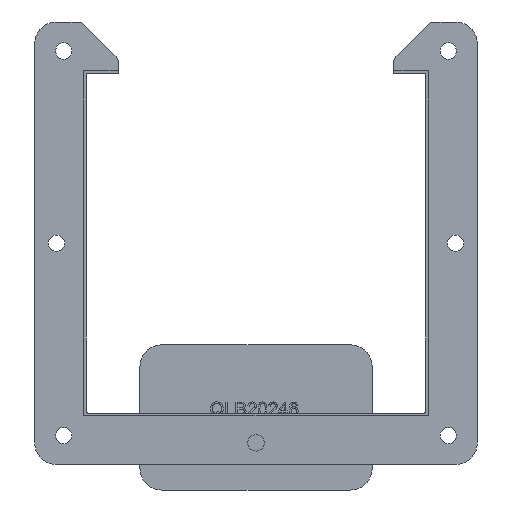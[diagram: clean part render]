
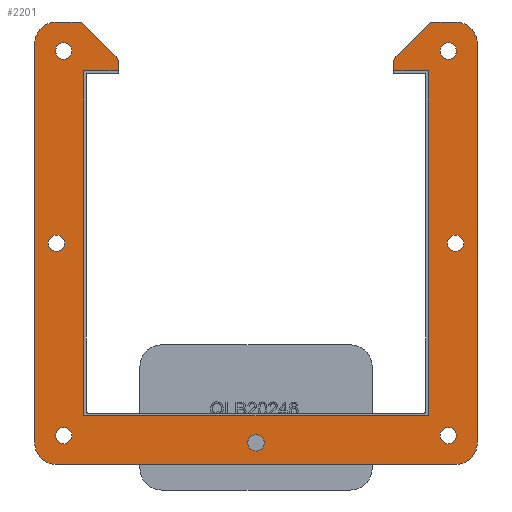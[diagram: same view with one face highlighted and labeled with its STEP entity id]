
A CAD part, front view. The second image highlights one B-rep face of the part: STEP entity #2201.
In plain terms, the highlighted planar face has unit normal (0, -1, 0) as drawn and (0, 0, 1) by its records, which use the part's own axes.
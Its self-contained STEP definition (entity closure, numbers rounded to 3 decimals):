
#195=CIRCLE('',#2387,3.569);
#196=CIRCLE('',#2388,3.569);
#197=CIRCLE('',#2389,3.569);
#198=CIRCLE('',#2390,3.569);
#199=CIRCLE('',#2391,3.569);
#200=CIRCLE('',#2392,3.569);
#201=CIRCLE('',#2393,3.569);
#202=CIRCLE('',#2394,9.525);
#203=CIRCLE('',#2395,3.175);
#204=CIRCLE('',#2396,3.175);
#205=CIRCLE('',#2397,3.175);
#206=CIRCLE('',#2398,3.175);
#207=CIRCLE('',#2399,9.525);
#208=CIRCLE('',#2400,9.525);
#209=CIRCLE('',#2401,9.525);
#319=ORIENTED_EDGE('',*,*,#951,.F.);
#320=ORIENTED_EDGE('',*,*,#952,.F.);
#321=ORIENTED_EDGE('',*,*,#953,.F.);
#322=ORIENTED_EDGE('',*,*,#954,.F.);
#323=ORIENTED_EDGE('',*,*,#955,.F.);
#324=ORIENTED_EDGE('',*,*,#956,.F.);
#325=ORIENTED_EDGE('',*,*,#957,.F.);
#326=ORIENTED_EDGE('',*,*,#896,.T.);
#327=ORIENTED_EDGE('',*,*,#958,.T.);
#328=ORIENTED_EDGE('',*,*,#898,.T.);
#329=ORIENTED_EDGE('',*,*,#959,.T.);
#330=ORIENTED_EDGE('',*,*,#902,.T.);
#331=ORIENTED_EDGE('',*,*,#960,.T.);
#332=ORIENTED_EDGE('',*,*,#906,.T.);
#333=ORIENTED_EDGE('',*,*,#910,.T.);
#334=ORIENTED_EDGE('',*,*,#913,.T.);
#335=ORIENTED_EDGE('',*,*,#916,.T.);
#336=ORIENTED_EDGE('',*,*,#919,.T.);
#337=ORIENTED_EDGE('',*,*,#922,.T.);
#338=ORIENTED_EDGE('',*,*,#927,.T.);
#339=ORIENTED_EDGE('',*,*,#961,.T.);
#340=ORIENTED_EDGE('',*,*,#930,.T.);
#341=ORIENTED_EDGE('',*,*,#962,.T.);
#342=ORIENTED_EDGE('',*,*,#934,.T.);
#343=ORIENTED_EDGE('',*,*,#963,.T.);
#344=ORIENTED_EDGE('',*,*,#888,.T.);
#345=ORIENTED_EDGE('',*,*,#964,.T.);
#346=ORIENTED_EDGE('',*,*,#892,.T.);
#347=ORIENTED_EDGE('',*,*,#965,.T.);
#888=EDGE_CURVE('',#1215,#1214,#1438,.T.);
#892=EDGE_CURVE('',#1219,#1218,#1442,.T.);
#896=EDGE_CURVE('',#1223,#1222,#1446,.T.);
#898=EDGE_CURVE('',#1224,#1225,#1448,.T.);
#902=EDGE_CURVE('',#1228,#1229,#1452,.T.);
#906=EDGE_CURVE('',#1232,#1233,#1456,.T.);
#910=EDGE_CURVE('',#1233,#1236,#1460,.T.);
#913=EDGE_CURVE('',#1236,#1238,#1463,.T.);
#916=EDGE_CURVE('',#1238,#1240,#1466,.T.);
#919=EDGE_CURVE('',#1240,#1242,#1469,.T.);
#922=EDGE_CURVE('',#1242,#1244,#1472,.T.);
#927=EDGE_CURVE('',#1244,#1247,#1477,.T.);
#930=EDGE_CURVE('',#1251,#1250,#1480,.T.);
#934=EDGE_CURVE('',#1255,#1254,#1484,.T.);
#951=EDGE_CURVE('',#1263,#1263,#195,.T.);
#952=EDGE_CURVE('',#1264,#1264,#196,.T.);
#953=EDGE_CURVE('',#1265,#1265,#197,.T.);
#954=EDGE_CURVE('',#1266,#1266,#198,.T.);
#955=EDGE_CURVE('',#1267,#1267,#199,.T.);
#956=EDGE_CURVE('',#1268,#1268,#200,.T.);
#957=EDGE_CURVE('',#1269,#1269,#201,.T.);
#958=EDGE_CURVE('',#1222,#1224,#202,.T.);
#959=EDGE_CURVE('',#1225,#1228,#203,.T.);
#960=EDGE_CURVE('',#1229,#1232,#204,.T.);
#961=EDGE_CURVE('',#1247,#1251,#205,.T.);
#962=EDGE_CURVE('',#1250,#1255,#206,.T.);
#963=EDGE_CURVE('',#1254,#1215,#207,.T.);
#964=EDGE_CURVE('',#1214,#1219,#208,.T.);
#965=EDGE_CURVE('',#1218,#1223,#209,.T.);
#1214=VERTEX_POINT('',#3042);
#1215=VERTEX_POINT('',#3044);
#1218=VERTEX_POINT('',#3051);
#1219=VERTEX_POINT('',#3053);
#1222=VERTEX_POINT('',#3060);
#1223=VERTEX_POINT('',#3062);
#1224=VERTEX_POINT('',#3066);
#1225=VERTEX_POINT('',#3067);
#1228=VERTEX_POINT('',#3075);
#1229=VERTEX_POINT('',#3076);
#1232=VERTEX_POINT('',#3084);
#1233=VERTEX_POINT('',#3085);
#1236=VERTEX_POINT('',#3093);
#1238=VERTEX_POINT('',#3099);
#1240=VERTEX_POINT('',#3105);
#1242=VERTEX_POINT('',#3111);
#1244=VERTEX_POINT('',#3117);
#1247=VERTEX_POINT('',#3125);
#1250=VERTEX_POINT('',#3132);
#1251=VERTEX_POINT('',#3134);
#1254=VERTEX_POINT('',#3141);
#1255=VERTEX_POINT('',#3143);
#1263=VERTEX_POINT('',#3170);
#1264=VERTEX_POINT('',#3172);
#1265=VERTEX_POINT('',#3174);
#1266=VERTEX_POINT('',#3176);
#1267=VERTEX_POINT('',#3178);
#1268=VERTEX_POINT('',#3180);
#1269=VERTEX_POINT('',#3182);
#1438=LINE('',#3043,#1600);
#1442=LINE('',#3052,#1604);
#1446=LINE('',#3061,#1608);
#1448=LINE('',#3065,#1610);
#1452=LINE('',#3074,#1614);
#1456=LINE('',#3083,#1618);
#1460=LINE('',#3092,#1622);
#1463=LINE('',#3098,#1625);
#1466=LINE('',#3104,#1628);
#1469=LINE('',#3110,#1631);
#1472=LINE('',#3116,#1634);
#1477=LINE('',#3126,#1639);
#1480=LINE('',#3133,#1642);
#1484=LINE('',#3142,#1646);
#1600=VECTOR('',#2535,1000.);
#1604=VECTOR('',#2541,1000.);
#1608=VECTOR('',#2547,1000.);
#1610=VECTOR('',#2551,1000.);
#1614=VECTOR('',#2557,1000.);
#1618=VECTOR('',#2563,1000.);
#1622=VECTOR('',#2569,1000.);
#1625=VECTOR('',#2574,1000.);
#1628=VECTOR('',#2579,1000.);
#1631=VECTOR('',#2584,1000.);
#1634=VECTOR('',#2589,1000.);
#1639=VECTOR('',#2596,1000.);
#1642=VECTOR('',#2601,1000.);
#1646=VECTOR('',#2607,1000.);
#1782=EDGE_LOOP('',(#319));
#1783=EDGE_LOOP('',(#320));
#1784=EDGE_LOOP('',(#321));
#1785=EDGE_LOOP('',(#322));
#1786=EDGE_LOOP('',(#323));
#1787=EDGE_LOOP('',(#324));
#1788=EDGE_LOOP('',(#325));
#1789=EDGE_LOOP('',(#326,#327,#328,#329,#330,#331,#332,#333,#334,#335,#336,
#337,#338,#339,#340,#341,#342,#343,#344,#345,#346,#347));
#1952=FACE_BOUND('',#1782,.T.);
#1953=FACE_BOUND('',#1783,.T.);
#1954=FACE_BOUND('',#1784,.T.);
#1955=FACE_BOUND('',#1785,.T.);
#1956=FACE_BOUND('',#1786,.T.);
#1957=FACE_BOUND('',#1787,.T.);
#1958=FACE_BOUND('',#1788,.T.);
#1959=FACE_BOUND('',#1789,.T.);
#2115=PLANE('',#2386);
#2201=ADVANCED_FACE('',(#1952,#1953,#1954,#1955,#1956,#1957,#1958,#1959),
#2115,.T.);
#2386=AXIS2_PLACEMENT_3D('',#3168,#2641,#2642);
#2387=AXIS2_PLACEMENT_3D('',#3169,#2643,#2644);
#2388=AXIS2_PLACEMENT_3D('',#3171,#2645,#2646);
#2389=AXIS2_PLACEMENT_3D('',#3173,#2647,#2648);
#2390=AXIS2_PLACEMENT_3D('',#3175,#2649,#2650);
#2391=AXIS2_PLACEMENT_3D('',#3177,#2651,#2652);
#2392=AXIS2_PLACEMENT_3D('',#3179,#2653,#2654);
#2393=AXIS2_PLACEMENT_3D('',#3181,#2655,#2656);
#2394=AXIS2_PLACEMENT_3D('',#3183,#2657,#2658);
#2395=AXIS2_PLACEMENT_3D('',#3184,#2659,#2660);
#2396=AXIS2_PLACEMENT_3D('',#3185,#2661,#2662);
#2397=AXIS2_PLACEMENT_3D('',#3186,#2663,#2664);
#2398=AXIS2_PLACEMENT_3D('',#3187,#2665,#2666);
#2399=AXIS2_PLACEMENT_3D('',#3188,#2667,#2668);
#2400=AXIS2_PLACEMENT_3D('',#3189,#2669,#2670);
#2401=AXIS2_PLACEMENT_3D('',#3190,#2671,#2672);
#2535=DIRECTION('',(0.,-1.,0.));
#2541=DIRECTION('',(1.,0.,0.));
#2547=DIRECTION('',(0.,1.,0.));
#2551=DIRECTION('',(-1.,0.,0.));
#2557=DIRECTION('',(-0.707,-0.707,0.));
#2563=DIRECTION('',(0.,-1.,0.));
#2569=DIRECTION('',(1.,0.,0.));
#2574=DIRECTION('',(0.,-1.,0.));
#2579=DIRECTION('',(-1.,0.,0.));
#2584=DIRECTION('',(0.,1.,0.));
#2589=DIRECTION('',(1.,0.,0.));
#2596=DIRECTION('',(0.,1.,0.));
#2601=DIRECTION('',(-0.707,0.707,0.));
#2607=DIRECTION('',(-1.,0.,0.));
#2641=DIRECTION('',(0.,0.,1.));
#2642=DIRECTION('',(1.,0.,0.));
#2643=DIRECTION('',(0.,0.,1.));
#2644=DIRECTION('',(0.,1.,0.));
#2645=DIRECTION('',(0.,0.,1.));
#2646=DIRECTION('',(0.,1.,0.));
#2647=DIRECTION('',(0.,0.,1.));
#2648=DIRECTION('',(0.,1.,0.));
#2649=DIRECTION('',(0.,0.,1.));
#2650=DIRECTION('',(0.,1.,0.));
#2651=DIRECTION('',(0.,0.,1.));
#2652=DIRECTION('',(0.,1.,0.));
#2653=DIRECTION('',(0.,0.,1.));
#2654=DIRECTION('',(0.,1.,0.));
#2655=DIRECTION('',(0.,0.,1.));
#2656=DIRECTION('',(0.,1.,0.));
#2657=DIRECTION('',(0.,0.,1.));
#2658=DIRECTION('',(1.,0.,0.));
#2659=DIRECTION('',(0.,0.,1.));
#2660=DIRECTION('',(1.,0.,0.));
#2661=DIRECTION('',(0.,0.,1.));
#2662=DIRECTION('',(1.,0.,0.));
#2663=DIRECTION('',(0.,0.,1.));
#2664=DIRECTION('',(1.,0.,0.));
#2665=DIRECTION('',(0.,0.,1.));
#2666=DIRECTION('',(1.,0.,0.));
#2667=DIRECTION('',(0.,0.,1.));
#2668=DIRECTION('',(1.,0.,0.));
#2669=DIRECTION('',(0.,0.,1.));
#2670=DIRECTION('',(1.,0.,0.));
#2671=DIRECTION('',(0.,0.,1.));
#2672=DIRECTION('',(1.,0.,0.));
#3042=CARTESIAN_POINT('',(-96.838,9.525,0.));
#3043=CARTESIAN_POINT('',(-96.838,193.675,0.));
#3044=CARTESIAN_POINT('',(-96.838,184.15,0.));
#3051=CARTESIAN_POINT('',(87.313,0.,0.));
#3052=CARTESIAN_POINT('',(-96.838,0.,0.));
#3053=CARTESIAN_POINT('',(-87.313,0.,0.));
#3060=CARTESIAN_POINT('',(96.838,184.15,0.));
#3061=CARTESIAN_POINT('',(96.838,0.,0.));
#3062=CARTESIAN_POINT('',(96.838,9.525,0.));
#3065=CARTESIAN_POINT('',(96.838,193.675,0.));
#3066=CARTESIAN_POINT('',(87.313,193.675,0.));
#3067=CARTESIAN_POINT('',(77.769,193.675,0.));
#3074=CARTESIAN_POINT('',(76.454,193.675,0.));
#3075=CARTESIAN_POINT('',(75.524,192.745,0.));
#3076=CARTESIAN_POINT('',(61.255,178.476,0.));
#3083=CARTESIAN_POINT('',(60.325,172.263,0.));
#3084=CARTESIAN_POINT('',(60.325,176.231,0.));
#3085=CARTESIAN_POINT('',(60.325,172.263,0.));
#3092=CARTESIAN_POINT('',(75.425,172.263,0.));
#3093=CARTESIAN_POINT('',(75.425,172.263,0.));
#3098=CARTESIAN_POINT('',(75.425,21.412,0.));
#3099=CARTESIAN_POINT('',(75.425,21.412,0.));
#3104=CARTESIAN_POINT('',(-75.425,21.412,0.));
#3105=CARTESIAN_POINT('',(-75.425,21.412,0.));
#3110=CARTESIAN_POINT('',(-75.425,172.263,0.));
#3111=CARTESIAN_POINT('',(-75.425,172.263,0.));
#3116=CARTESIAN_POINT('',(-60.325,172.263,0.));
#3117=CARTESIAN_POINT('',(-60.325,172.263,0.));
#3125=CARTESIAN_POINT('',(-60.325,176.231,0.));
#3126=CARTESIAN_POINT('',(-60.325,172.263,0.));
#3132=CARTESIAN_POINT('',(-75.524,192.745,0.));
#3133=CARTESIAN_POINT('',(-76.454,193.675,0.));
#3134=CARTESIAN_POINT('',(-61.255,178.476,0.));
#3141=CARTESIAN_POINT('',(-87.313,193.675,0.));
#3142=CARTESIAN_POINT('',(-76.454,193.675,0.));
#3143=CARTESIAN_POINT('',(-77.769,193.675,0.));
#3168=CARTESIAN_POINT('',(-96.838,0.,0.));
#3169=CARTESIAN_POINT('',(-84.138,12.7,0.));
#3170=CARTESIAN_POINT('',(-84.138,16.269,0.));
#3171=CARTESIAN_POINT('',(84.138,180.975,0.));
#3172=CARTESIAN_POINT('',(84.138,184.544,0.));
#3173=CARTESIAN_POINT('',(87.313,96.838,0.));
#3174=CARTESIAN_POINT('',(87.313,100.406,0.));
#3175=CARTESIAN_POINT('',(84.138,12.7,0.));
#3176=CARTESIAN_POINT('',(84.138,16.269,0.));
#3177=CARTESIAN_POINT('',(-87.313,96.838,0.));
#3178=CARTESIAN_POINT('',(-87.313,100.406,0.));
#3179=CARTESIAN_POINT('',(0.,9.525,0.));
#3180=CARTESIAN_POINT('',(0.,13.094,0.));
#3181=CARTESIAN_POINT('',(-84.138,180.975,0.));
#3182=CARTESIAN_POINT('',(-84.138,184.544,0.));
#3183=CARTESIAN_POINT('',(87.313,184.15,0.));
#3184=CARTESIAN_POINT('',(77.769,190.5,0.));
#3185=CARTESIAN_POINT('',(63.5,176.231,0.));
#3186=CARTESIAN_POINT('',(-63.5,176.231,0.));
#3187=CARTESIAN_POINT('',(-77.769,190.5,0.));
#3188=CARTESIAN_POINT('',(-87.313,184.15,0.));
#3189=CARTESIAN_POINT('',(-87.313,9.525,0.));
#3190=CARTESIAN_POINT('',(87.313,9.525,0.));
